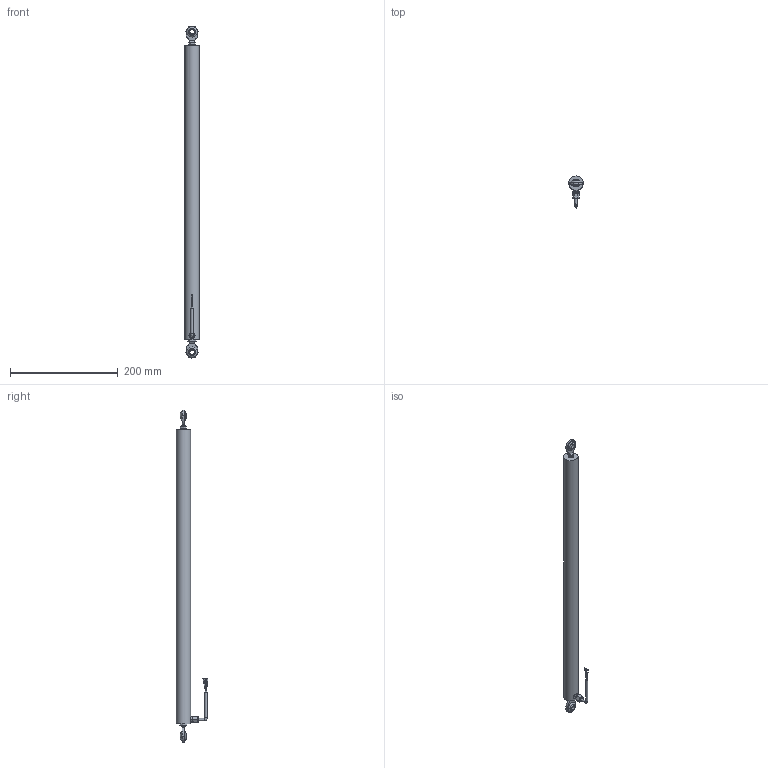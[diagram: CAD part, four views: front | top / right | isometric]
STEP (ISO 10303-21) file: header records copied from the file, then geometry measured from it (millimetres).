
FILE_DESCRIPTION(/* description */ (''),/* implementation_level */ '2;1');
FILE_NAME(/* name */ 'ILPS-27L-450-R-00-50-A (wrapped).stp',/* time_stamp */ '2026-01-12T10:09:37-05:00',/* author */ ('JN'),/* organization */ (''),/* preprocessor_version */ 'ST-DEVELOPER v20.1',/* originating_system */ 'Autodesk Inventor 2026',/* authorisation */ '');
FILE_SCHEMA (('AUTOMOTIVE_DESIGN { 1 0 10303 214 3 1 1 }'));
Length unit declared in the file: inch
Products named in the file (4): ILPS-27-100-R-00-50-A (wrapped); ILPS-27L-450-R-00-50-A_Simplify_1; ILPS-27L-450-R-00-50-A_Simplify_2; LZ-33 Cable
Assembly tree (3 placements, depth 2):
  ILPS-27-100-R-00-50-A (wrapped)
    ILPS-27L-450-R-00-50-A_Simplify_1
    ILPS-27L-450-R-00-50-A_Simplify_2
    LZ-33 Cable
Bounding box: 26.67 x 58.7 x 615.92 mm (x, y, z)
Volume: 305553.4 mm3; surface area: 86445.2 mm2
Topology: 3 solids, 3 shells, 148 faces, 338 edges, 222 vertices
Faces by surface type: plane 74, cylinder 53, bspline 8, torus 6, sphere 4, cone 3
Full cylindrical faces by diameter (mm): 0.635 x4, 0.762 x4, 4.369 x3, 4.572 x2, 8 x2, 8.712 x2, 9.398 x2, 10.999 x1, 26.67 x1
Entity records: 4999 total; most frequent: CARTESIAN_POINT 1192, DIRECTION 740, ORIENTED_EDGE 674, EDGE_CURVE 337, AXIS2_PLACEMENT_3D 298, VERTEX_POINT 222, EDGE_LOOP 179, STYLED_ITEM 152
